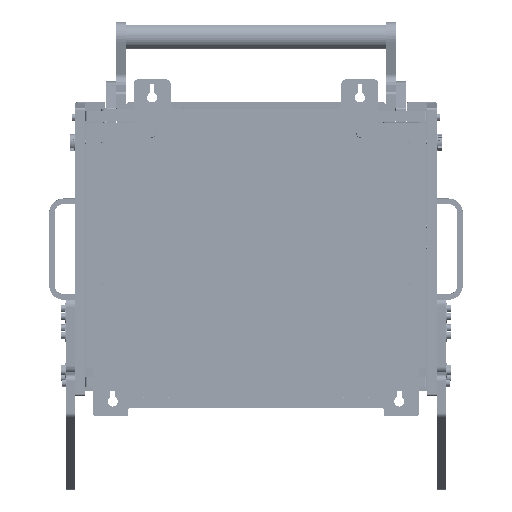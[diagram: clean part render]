
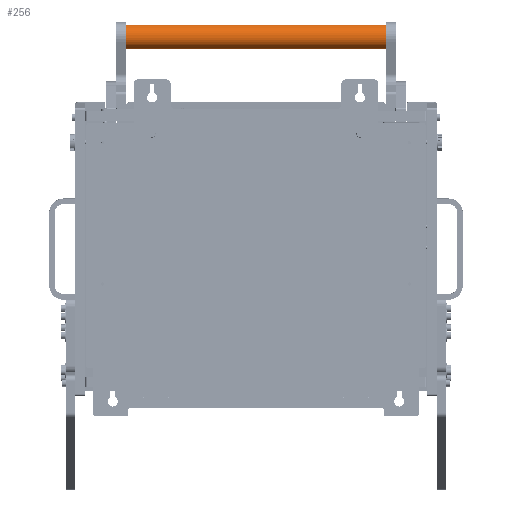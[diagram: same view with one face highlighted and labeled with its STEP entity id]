
A CAD part, front view. The second image highlights one B-rep face of the part: STEP entity #256.
In plain terms, the highlighted cylindrical face has radius 12.5 mm (diameter 25 mm), a partial arc.
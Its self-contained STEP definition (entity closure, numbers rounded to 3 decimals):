
#256 = ADVANCED_FACE ( 'NONE', ( #104790 ), #28688, .T. ) ;
#2918 = EDGE_CURVE ( 'NONE', #91878, #134483, #13638, .T. ) ;
#3251 = AXIS2_PLACEMENT_3D ( 'NONE', #62425, #117064, #140782 ) ;
#8551 = DIRECTION ( 'NONE',  ( 0., 0., 1. ) ) ;
#8648 = DIRECTION ( 'NONE',  ( 0., 0., 1. ) ) ;
#10666 = CIRCLE ( 'NONE', #68797, 12.5 ) ;
#13638 = LINE ( 'NONE', #128269, #118093 ) ;
#17651 = CARTESIAN_POINT ( 'NONE',  ( 0., 0., -135. ) ) ;
#19016 = CARTESIAN_POINT ( 'NONE',  ( 12.5, 0., -135. ) ) ;
#19509 = DIRECTION ( 'NONE',  ( 1., 0., 0. ) ) ;
#25042 = ORIENTED_EDGE ( 'NONE', *, *, #53895, .F. ) ;
#28688 = CYLINDRICAL_SURFACE ( 'NONE', #125461, 12.5 ) ;
#29031 = DIRECTION ( 'NONE',  ( 0., 0., 1. ) ) ;
#30940 = DIRECTION ( 'NONE',  ( 1., 0., 0. ) ) ;
#46221 = CARTESIAN_POINT ( 'NONE',  ( -12.5, 0., 135. ) ) ;
#51177 = EDGE_CURVE ( 'NONE', #64914, #83316, #95085, .T. ) ;
#53895 = EDGE_CURVE ( 'NONE', #134483, #83316, #10666, .T. ) ;
#62425 = CARTESIAN_POINT ( 'NONE',  ( 0., 0., -135. ) ) ;
#63949 = ORIENTED_EDGE ( 'NONE', *, *, #68829, .T. ) ;
#64875 = ORIENTED_EDGE ( 'NONE', *, *, #2918, .F. ) ;
#64914 = VERTEX_POINT ( 'NONE', #107390 ) ;
#68797 = AXIS2_PLACEMENT_3D ( 'NONE', #88698, #8648, #19509 ) ;
#68829 = EDGE_CURVE ( 'NONE', #91878, #64914, #127124, .T. ) ;
#75580 = VECTOR ( 'NONE', #8551, 1000. ) ;
#83316 = VERTEX_POINT ( 'NONE', #46221 ) ;
#88698 = CARTESIAN_POINT ( 'NONE',  ( 0., 0., 135. ) ) ;
#91878 = VERTEX_POINT ( 'NONE', #19016 ) ;
#95085 = LINE ( 'NONE', #131760, #75580 ) ;
#104790 = FACE_OUTER_BOUND ( 'NONE', #115226, .T. ) ;
#107390 = CARTESIAN_POINT ( 'NONE',  ( -12.5, 0., -135. ) ) ;
#110477 = ORIENTED_EDGE ( 'NONE', *, *, #51177, .T. ) ;
#115226 = EDGE_LOOP ( 'NONE', ( #63949, #110477, #25042, #64875 ) ) ;
#117064 = DIRECTION ( 'NONE',  ( 0., 0., 1. ) ) ;
#117218 = CARTESIAN_POINT ( 'NONE',  ( 12.5, 0., 135. ) ) ;
#118093 = VECTOR ( 'NONE', #127266, 1000. ) ;
#125461 = AXIS2_PLACEMENT_3D ( 'NONE', #17651, #29031, #30940 ) ;
#127124 = CIRCLE ( 'NONE', #3251, 12.5 ) ;
#127266 = DIRECTION ( 'NONE',  ( 0., 0., 1. ) ) ;
#128269 = CARTESIAN_POINT ( 'NONE',  ( 12.5, 0., -135. ) ) ;
#131760 = CARTESIAN_POINT ( 'NONE',  ( -12.5, 0., -135. ) ) ;
#134483 = VERTEX_POINT ( 'NONE', #117218 ) ;
#140782 = DIRECTION ( 'NONE',  ( 1., 0., 0. ) ) ;
